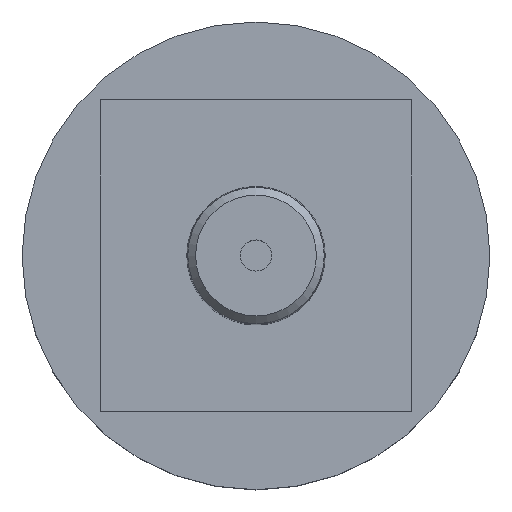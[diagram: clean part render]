
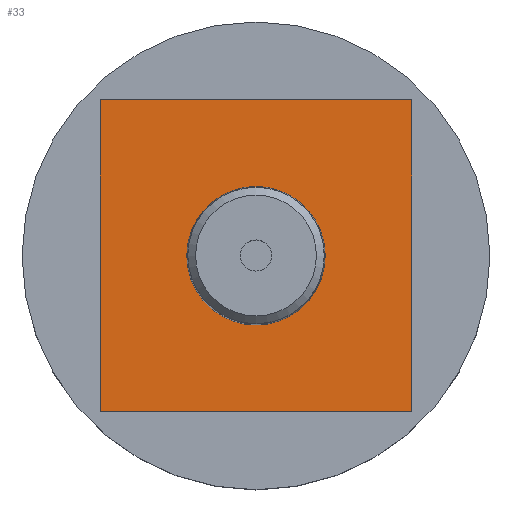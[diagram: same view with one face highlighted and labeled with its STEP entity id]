
A CAD part, top view. The second image highlights one B-rep face of the part: STEP entity #33.
In plain terms, the highlighted planar face has unit normal (0, 0, 1).
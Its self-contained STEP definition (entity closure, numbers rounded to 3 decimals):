
#10 = VECTOR ( 'NONE', #62, 1000. ) ;
#12 = CARTESIAN_POINT ( 'NONE',  ( -40., 40., 37. ) ) ;
#22 = AXIS2_PLACEMENT_3D ( 'NONE', #205, #296, #290 ) ;
#33 = ADVANCED_FACE ( 'NONE', ( #241, #78 ), #392, .T. ) ;
#62 = DIRECTION ( 'NONE',  ( 0., -1., 0. ) ) ;
#63 = EDGE_LOOP ( 'NONE', ( #384 ) ) ;
#65 = CARTESIAN_POINT ( 'NONE',  ( -40., 0., 37. ) ) ;
#75 = VERTEX_POINT ( 'NONE', #465 ) ;
#77 = ORIENTED_EDGE ( 'NONE', *, *, #328, .T. ) ;
#78 = FACE_OUTER_BOUND ( 'NONE', #418, .T. ) ;
#104 = LINE ( 'NONE', #133, #469 ) ;
#106 = AXIS2_PLACEMENT_3D ( 'NONE', #309, #196, #348 ) ;
#128 = LINE ( 'NONE', #176, #410 ) ;
#129 = ORIENTED_EDGE ( 'NONE', *, *, #154, .T. ) ;
#133 = CARTESIAN_POINT ( 'NONE',  ( 40., 0., 37. ) ) ;
#145 = VERTEX_POINT ( 'NONE', #463 ) ;
#154 = EDGE_CURVE ( 'NONE', #75, #221, #283, .T. ) ;
#176 = CARTESIAN_POINT ( 'NONE',  ( -18., 40., 37. ) ) ;
#183 = VERTEX_POINT ( 'NONE', #285 ) ;
#186 = VERTEX_POINT ( 'NONE', #12 ) ;
#196 = DIRECTION ( 'NONE',  ( 0., 0., 1. ) ) ;
#205 = CARTESIAN_POINT ( 'NONE',  ( 0., 0., 37. ) ) ;
#221 = VERTEX_POINT ( 'NONE', #474 ) ;
#237 = CIRCLE ( 'NONE', #22, 17.764 ) ;
#238 = EDGE_CURVE ( 'NONE', #186, #75, #447, .T. ) ;
#241 = FACE_BOUND ( 'NONE', #63, .T. ) ;
#276 = EDGE_CURVE ( 'NONE', #145, #145, #237, .T. ) ;
#280 = DIRECTION ( 'NONE',  ( 1., 0., 0. ) ) ;
#283 = LINE ( 'NONE', #433, #294 ) ;
#285 = CARTESIAN_POINT ( 'NONE',  ( 40., 40., 37. ) ) ;
#290 = DIRECTION ( 'NONE',  ( 1., 0., 0. ) ) ;
#294 = VECTOR ( 'NONE', #280, 1000. ) ;
#296 = DIRECTION ( 'NONE',  ( 0., 0., 1. ) ) ;
#309 = CARTESIAN_POINT ( 'NONE',  ( 0., 0., 37. ) ) ;
#328 = EDGE_CURVE ( 'NONE', #183, #186, #128, .T. ) ;
#332 = ORIENTED_EDGE ( 'NONE', *, *, #405, .T. ) ;
#348 = DIRECTION ( 'NONE',  ( 1., 0., 0. ) ) ;
#384 = ORIENTED_EDGE ( 'NONE', *, *, #276, .F. ) ;
#392 = PLANE ( 'NONE',  #106 ) ;
#405 = EDGE_CURVE ( 'NONE', #221, #183, #104, .T. ) ;
#410 = VECTOR ( 'NONE', #486, 1000. ) ;
#418 = EDGE_LOOP ( 'NONE', ( #439, #129, #332, #77 ) ) ;
#433 = CARTESIAN_POINT ( 'NONE',  ( -18., -40., 37. ) ) ;
#439 = ORIENTED_EDGE ( 'NONE', *, *, #238, .T. ) ;
#444 = DIRECTION ( 'NONE',  ( 0., 1., 0. ) ) ;
#447 = LINE ( 'NONE', #65, #10 ) ;
#463 = CARTESIAN_POINT ( 'NONE',  ( 17.764, 0., 37. ) ) ;
#465 = CARTESIAN_POINT ( 'NONE',  ( -40., -40., 37. ) ) ;
#469 = VECTOR ( 'NONE', #444, 1000. ) ;
#474 = CARTESIAN_POINT ( 'NONE',  ( 40., -40., 37. ) ) ;
#486 = DIRECTION ( 'NONE',  ( -1., 0., 0. ) ) ;
